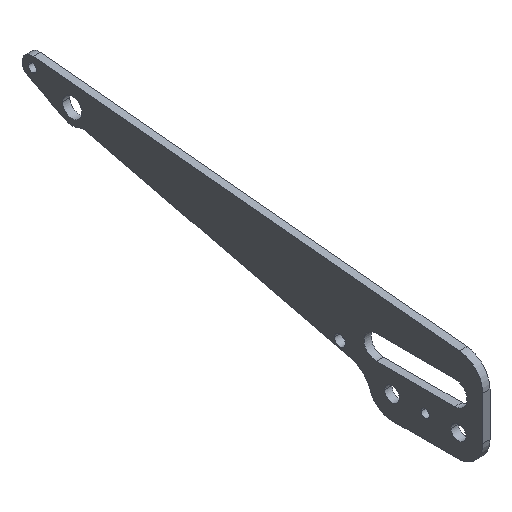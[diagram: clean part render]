
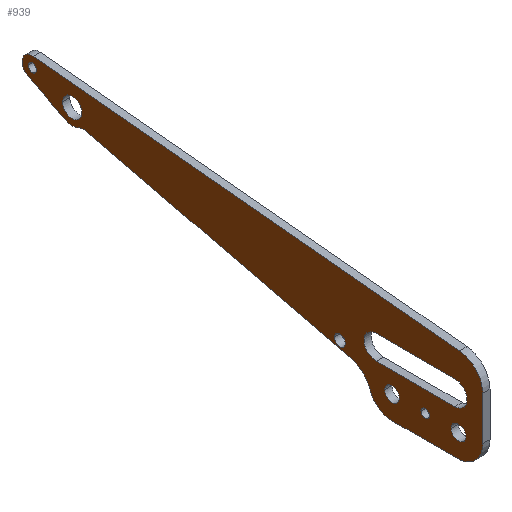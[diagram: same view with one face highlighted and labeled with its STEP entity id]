
A CAD part, isometric view. The second image highlights one B-rep face of the part: STEP entity #939.
In plain terms, the highlighted planar face has unit normal (-1, 0, 0).
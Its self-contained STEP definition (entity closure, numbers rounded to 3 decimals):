
#61=CARTESIAN_POINT('Vertex',(0.,-339.,-71.)) ;
#66=CARTESIAN_POINT('Axis2P3D Location',(0.,-318.,-71.)) ;
#70=CARTESIAN_POINT('Vertex',(0.,-318.,-92.)) ;
#97=CARTESIAN_POINT('Line Origine',(0.,-291.,-92.)) ;
#101=CARTESIAN_POINT('Vertex',(0.,-264.,-92.)) ;
#128=CARTESIAN_POINT('Axis2P3D Location',(0.,-264.,-73.)) ;
#132=CARTESIAN_POINT('Vertex',(0.,-245.975,-79.008)) ;
#159=CARTESIAN_POINT('Axis2P3D Location',(0.,-225.,-86.)) ;
#163=CARTESIAN_POINT('Vertex',(0.,-230.25,-64.523)) ;
#190=CARTESIAN_POINT('Line Origine',(0.,-121.621,-37.967)) ;
#194=CARTESIAN_POINT('Vertex',(0.,-12.991,-11.411)) ;
#221=CARTESIAN_POINT('Axis2P3D Location',(0.,-9.904,-24.04)) ;
#225=CARTESIAN_POINT('Vertex',(0.,-4.952,-12.02)) ;
#252=CARTESIAN_POINT('Axis2P3D Location',(0.,0.,0.)) ;
#256=CARTESIAN_POINT('Vertex',(0.,5.972,-11.547)) ;
#283=CARTESIAN_POINT('Line Origine',(0.,21.438,-3.549)) ;
#287=CARTESIAN_POINT('Vertex',(0.,36.905,4.45)) ;
#314=CARTESIAN_POINT('Axis2P3D Location',(0.,33.,12.)) ;
#318=CARTESIAN_POINT('Vertex',(0.,32.17,20.459)) ;
#345=CARTESIAN_POINT('Line Origine',(0.,-143.94,3.18)) ;
#349=CARTESIAN_POINT('Vertex',(0.,-320.051,-14.1)) ;
#376=CARTESIAN_POINT('Axis2P3D Location',(0.,-318.,-35.)) ;
#380=CARTESIAN_POINT('Vertex',(0.,-339.,-35.)) ;
#407=CARTESIAN_POINT('Line Origine',(0.,-339.,-53.)) ;
#442=CARTESIAN_POINT('Vertex',(0.,8.,0.)) ;
#445=CARTESIAN_POINT('Axis2P3D Location',(0.,0.,0.)) ;
#449=CARTESIAN_POINT('Vertex',(0.,-8.,0.)) ;
#469=CARTESIAN_POINT('Axis2P3D Location',(0.,0.,0.)) ;
#499=CARTESIAN_POINT('Vertex',(0.,36.5,12.)) ;
#502=CARTESIAN_POINT('Axis2P3D Location',(0.,33.,12.)) ;
#506=CARTESIAN_POINT('Vertex',(0.,29.5,12.)) ;
#526=CARTESIAN_POINT('Axis2P3D Location',(0.,33.,12.)) ;
#556=CARTESIAN_POINT('Vertex',(0.,-258.,-73.)) ;
#559=CARTESIAN_POINT('Axis2P3D Location',(0.,-264.,-73.)) ;
#563=CARTESIAN_POINT('Vertex',(0.,-270.,-73.)) ;
#583=CARTESIAN_POINT('Axis2P3D Location',(0.,-264.,-73.)) ;
#613=CARTESIAN_POINT('Vertex',(0.,-313.,-73.)) ;
#616=CARTESIAN_POINT('Axis2P3D Location',(0.,-319.,-73.)) ;
#620=CARTESIAN_POINT('Vertex',(0.,-325.,-73.)) ;
#640=CARTESIAN_POINT('Axis2P3D Location',(0.,-319.,-73.)) ;
#670=CARTESIAN_POINT('Vertex',(0.,-288.,-73.)) ;
#673=CARTESIAN_POINT('Axis2P3D Location',(0.,-291.5,-73.)) ;
#677=CARTESIAN_POINT('Vertex',(0.,-295.,-73.)) ;
#697=CARTESIAN_POINT('Axis2P3D Location',(0.,-291.5,-73.)) ;
#727=CARTESIAN_POINT('Vertex',(0.,-216.5,-56.)) ;
#730=CARTESIAN_POINT('Axis2P3D Location',(0.,-221.,-56.)) ;
#734=CARTESIAN_POINT('Vertex',(0.,-225.5,-56.)) ;
#754=CARTESIAN_POINT('Axis2P3D Location',(0.,-221.,-56.)) ;
#784=CARTESIAN_POINT('Vertex',(0.,-316.,-36.)) ;
#787=CARTESIAN_POINT('Line Origine',(0.,-283.5,-36.)) ;
#791=CARTESIAN_POINT('Vertex',(0.,-251.,-36.)) ;
#818=CARTESIAN_POINT('Axis2P3D Location',(0.,-251.,-46.)) ;
#822=CARTESIAN_POINT('Vertex',(0.,-251.,-56.)) ;
#849=CARTESIAN_POINT('Line Origine',(0.,-283.5,-56.)) ;
#853=CARTESIAN_POINT('Vertex',(0.,-316.,-56.)) ;
#878=CARTESIAN_POINT('Axis2P3D Location',(0.,-316.,-46.)) ;
#890=CARTESIAN_POINT('Axis2P3D Location',(0.,0.,0.)) ;
#67=DIRECTION('Axis2P3D Direction',(1.,0.,0.)) ;
#98=DIRECTION('Vector Direction',(0.,-1.,0.)) ;
#129=DIRECTION('Axis2P3D Direction',(1.,0.,0.)) ;
#160=DIRECTION('Axis2P3D Direction',(1.,0.,0.)) ;
#191=DIRECTION('Vector Direction',(0.,-0.971,-0.237)) ;
#222=DIRECTION('Axis2P3D Direction',(1.,0.,0.)) ;
#253=DIRECTION('Axis2P3D Direction',(1.,0.,0.)) ;
#284=DIRECTION('Vector Direction',(0.,-0.888,-0.459)) ;
#315=DIRECTION('Axis2P3D Direction',(1.,0.,0.)) ;
#346=DIRECTION('Vector Direction',(0.,0.995,0.098)) ;
#377=DIRECTION('Axis2P3D Direction',(1.,0.,0.)) ;
#408=DIRECTION('Vector Direction',(0.,0.,1.)) ;
#446=DIRECTION('Axis2P3D Direction',(1.,0.,0.)) ;
#470=DIRECTION('Axis2P3D Direction',(1.,0.,0.)) ;
#503=DIRECTION('Axis2P3D Direction',(1.,0.,0.)) ;
#527=DIRECTION('Axis2P3D Direction',(1.,0.,0.)) ;
#560=DIRECTION('Axis2P3D Direction',(1.,0.,0.)) ;
#584=DIRECTION('Axis2P3D Direction',(1.,0.,0.)) ;
#617=DIRECTION('Axis2P3D Direction',(1.,0.,0.)) ;
#641=DIRECTION('Axis2P3D Direction',(1.,0.,0.)) ;
#674=DIRECTION('Axis2P3D Direction',(1.,0.,0.)) ;
#698=DIRECTION('Axis2P3D Direction',(1.,0.,0.)) ;
#731=DIRECTION('Axis2P3D Direction',(1.,0.,0.)) ;
#755=DIRECTION('Axis2P3D Direction',(1.,0.,0.)) ;
#788=DIRECTION('Vector Direction',(0.,1.,0.)) ;
#819=DIRECTION('Axis2P3D Direction',(1.,0.,0.)) ;
#850=DIRECTION('Vector Direction',(0.,-1.,0.)) ;
#879=DIRECTION('Axis2P3D Direction',(1.,0.,0.)) ;
#891=DIRECTION('Axis2P3D Direction',(1.,0.,0.)) ;
#892=DIRECTION('Axis2P3D XDirection',(0.,1.,0.)) ;
#68=AXIS2_PLACEMENT_3D('Circle Axis2P3D',#66,#67,$) ;
#130=AXIS2_PLACEMENT_3D('Circle Axis2P3D',#128,#129,$) ;
#161=AXIS2_PLACEMENT_3D('Circle Axis2P3D',#159,#160,$) ;
#223=AXIS2_PLACEMENT_3D('Circle Axis2P3D',#221,#222,$) ;
#254=AXIS2_PLACEMENT_3D('Circle Axis2P3D',#252,#253,$) ;
#316=AXIS2_PLACEMENT_3D('Circle Axis2P3D',#314,#315,$) ;
#378=AXIS2_PLACEMENT_3D('Circle Axis2P3D',#376,#377,$) ;
#447=AXIS2_PLACEMENT_3D('Circle Axis2P3D',#445,#446,$) ;
#471=AXIS2_PLACEMENT_3D('Circle Axis2P3D',#469,#470,$) ;
#504=AXIS2_PLACEMENT_3D('Circle Axis2P3D',#502,#503,$) ;
#528=AXIS2_PLACEMENT_3D('Circle Axis2P3D',#526,#527,$) ;
#561=AXIS2_PLACEMENT_3D('Circle Axis2P3D',#559,#560,$) ;
#585=AXIS2_PLACEMENT_3D('Circle Axis2P3D',#583,#584,$) ;
#618=AXIS2_PLACEMENT_3D('Circle Axis2P3D',#616,#617,$) ;
#642=AXIS2_PLACEMENT_3D('Circle Axis2P3D',#640,#641,$) ;
#675=AXIS2_PLACEMENT_3D('Circle Axis2P3D',#673,#674,$) ;
#699=AXIS2_PLACEMENT_3D('Circle Axis2P3D',#697,#698,$) ;
#732=AXIS2_PLACEMENT_3D('Circle Axis2P3D',#730,#731,$) ;
#756=AXIS2_PLACEMENT_3D('Circle Axis2P3D',#754,#755,$) ;
#820=AXIS2_PLACEMENT_3D('Circle Axis2P3D',#818,#819,$) ;
#880=AXIS2_PLACEMENT_3D('Circle Axis2P3D',#878,#879,$) ;
#893=AXIS2_PLACEMENT_3D('Plane Axis2P3D',#890,#891,#892) ;
#896=ORIENTED_EDGE('',*,*,#411,.F.) ;
#897=ORIENTED_EDGE('',*,*,#382,.F.) ;
#898=ORIENTED_EDGE('',*,*,#351,.F.) ;
#899=ORIENTED_EDGE('',*,*,#320,.F.) ;
#900=ORIENTED_EDGE('',*,*,#289,.F.) ;
#901=ORIENTED_EDGE('',*,*,#258,.F.) ;
#902=ORIENTED_EDGE('',*,*,#227,.F.) ;
#903=ORIENTED_EDGE('',*,*,#196,.F.) ;
#904=ORIENTED_EDGE('',*,*,#165,.F.) ;
#905=ORIENTED_EDGE('',*,*,#134,.F.) ;
#906=ORIENTED_EDGE('',*,*,#103,.F.) ;
#907=ORIENTED_EDGE('',*,*,#72,.F.) ;
#910=ORIENTED_EDGE('',*,*,#473,.T.) ;
#911=ORIENTED_EDGE('',*,*,#451,.T.) ;
#914=ORIENTED_EDGE('',*,*,#530,.T.) ;
#915=ORIENTED_EDGE('',*,*,#508,.T.) ;
#918=ORIENTED_EDGE('',*,*,#587,.T.) ;
#919=ORIENTED_EDGE('',*,*,#565,.T.) ;
#922=ORIENTED_EDGE('',*,*,#644,.T.) ;
#923=ORIENTED_EDGE('',*,*,#622,.T.) ;
#926=ORIENTED_EDGE('',*,*,#701,.T.) ;
#927=ORIENTED_EDGE('',*,*,#679,.T.) ;
#930=ORIENTED_EDGE('',*,*,#758,.T.) ;
#931=ORIENTED_EDGE('',*,*,#736,.T.) ;
#934=ORIENTED_EDGE('',*,*,#882,.T.) ;
#935=ORIENTED_EDGE('',*,*,#855,.T.) ;
#936=ORIENTED_EDGE('',*,*,#824,.T.) ;
#937=ORIENTED_EDGE('',*,*,#793,.T.) ;
#912=FACE_BOUND('',#909,.T.) ;
#916=FACE_BOUND('',#913,.T.) ;
#920=FACE_BOUND('',#917,.T.) ;
#924=FACE_BOUND('',#921,.T.) ;
#928=FACE_BOUND('',#925,.T.) ;
#932=FACE_BOUND('',#929,.T.) ;
#938=FACE_BOUND('',#933,.T.) ;
#99=VECTOR('Line Direction',#98,1.) ;
#192=VECTOR('Line Direction',#191,1.) ;
#285=VECTOR('Line Direction',#284,1.) ;
#347=VECTOR('Line Direction',#346,1.) ;
#409=VECTOR('Line Direction',#408,1.) ;
#789=VECTOR('Line Direction',#788,1.) ;
#851=VECTOR('Line Direction',#850,1.) ;
#939=ADVANCED_FACE('',(#908,#912,#916,#920,#924,#928,#932,#938),#894,.F.) ;
#69=CIRCLE('generated circle',#68,21.) ;
#131=CIRCLE('generated circle',#130,19.) ;
#162=CIRCLE('generated circle',#161,22.11) ;
#224=CIRCLE('generated circle',#223,13.) ;
#255=CIRCLE('generated circle',#254,13.) ;
#317=CIRCLE('generated circle',#316,8.5) ;
#379=CIRCLE('generated circle',#378,21.) ;
#448=CIRCLE('generated circle',#447,8.) ;
#472=CIRCLE('generated circle',#471,8.) ;
#505=CIRCLE('generated circle',#504,3.5) ;
#529=CIRCLE('generated circle',#528,3.5) ;
#562=CIRCLE('generated circle',#561,6.) ;
#586=CIRCLE('generated circle',#585,6.) ;
#619=CIRCLE('generated circle',#618,6.) ;
#643=CIRCLE('generated circle',#642,6.) ;
#676=CIRCLE('generated circle',#675,3.5) ;
#700=CIRCLE('generated circle',#699,3.5) ;
#733=CIRCLE('generated circle',#732,4.5) ;
#757=CIRCLE('generated circle',#756,4.5) ;
#821=CIRCLE('generated circle',#820,10.) ;
#881=CIRCLE('generated circle',#880,10.) ;
#72=EDGE_CURVE('',#62,#71,#69,.T.) ;
#103=EDGE_CURVE('',#71,#102,#100,.F.) ;
#134=EDGE_CURVE('',#102,#133,#131,.T.) ;
#165=EDGE_CURVE('',#133,#164,#162,.F.) ;
#196=EDGE_CURVE('',#164,#195,#193,.F.) ;
#227=EDGE_CURVE('',#195,#226,#224,.F.) ;
#258=EDGE_CURVE('',#226,#257,#255,.T.) ;
#289=EDGE_CURVE('',#257,#288,#286,.F.) ;
#320=EDGE_CURVE('',#288,#319,#317,.T.) ;
#351=EDGE_CURVE('',#319,#350,#348,.F.) ;
#382=EDGE_CURVE('',#350,#381,#379,.T.) ;
#411=EDGE_CURVE('',#381,#62,#410,.F.) ;
#451=EDGE_CURVE('',#450,#443,#448,.T.) ;
#473=EDGE_CURVE('',#443,#450,#472,.T.) ;
#508=EDGE_CURVE('',#507,#500,#505,.T.) ;
#530=EDGE_CURVE('',#500,#507,#529,.T.) ;
#565=EDGE_CURVE('',#564,#557,#562,.T.) ;
#587=EDGE_CURVE('',#557,#564,#586,.T.) ;
#622=EDGE_CURVE('',#621,#614,#619,.T.) ;
#644=EDGE_CURVE('',#614,#621,#643,.T.) ;
#679=EDGE_CURVE('',#678,#671,#676,.T.) ;
#701=EDGE_CURVE('',#671,#678,#700,.T.) ;
#736=EDGE_CURVE('',#735,#728,#733,.T.) ;
#758=EDGE_CURVE('',#728,#735,#757,.T.) ;
#793=EDGE_CURVE('',#792,#785,#790,.F.) ;
#824=EDGE_CURVE('',#823,#792,#821,.T.) ;
#855=EDGE_CURVE('',#854,#823,#852,.F.) ;
#882=EDGE_CURVE('',#785,#854,#881,.T.) ;
#895=EDGE_LOOP('',(#896,#897,#898,#899,#900,#901,#902,#903,#904,#905,#906,#907)) ;
#909=EDGE_LOOP('',(#910,#911)) ;
#913=EDGE_LOOP('',(#914,#915)) ;
#917=EDGE_LOOP('',(#918,#919)) ;
#921=EDGE_LOOP('',(#922,#923)) ;
#925=EDGE_LOOP('',(#926,#927)) ;
#929=EDGE_LOOP('',(#930,#931)) ;
#933=EDGE_LOOP('',(#934,#935,#936,#937)) ;
#908=FACE_OUTER_BOUND('',#895,.T.) ;
#100=LINE('Line',#97,#99) ;
#193=LINE('Line',#190,#192) ;
#286=LINE('Line',#283,#285) ;
#348=LINE('Line',#345,#347) ;
#410=LINE('Line',#407,#409) ;
#790=LINE('Line',#787,#789) ;
#852=LINE('Line',#849,#851) ;
#894=PLANE('Plane',#893) ;
#62=VERTEX_POINT('',#61) ;
#71=VERTEX_POINT('',#70) ;
#102=VERTEX_POINT('',#101) ;
#133=VERTEX_POINT('',#132) ;
#164=VERTEX_POINT('',#163) ;
#195=VERTEX_POINT('',#194) ;
#226=VERTEX_POINT('',#225) ;
#257=VERTEX_POINT('',#256) ;
#288=VERTEX_POINT('',#287) ;
#319=VERTEX_POINT('',#318) ;
#350=VERTEX_POINT('',#349) ;
#381=VERTEX_POINT('',#380) ;
#443=VERTEX_POINT('',#442) ;
#450=VERTEX_POINT('',#449) ;
#500=VERTEX_POINT('',#499) ;
#507=VERTEX_POINT('',#506) ;
#557=VERTEX_POINT('',#556) ;
#564=VERTEX_POINT('',#563) ;
#614=VERTEX_POINT('',#613) ;
#621=VERTEX_POINT('',#620) ;
#671=VERTEX_POINT('',#670) ;
#678=VERTEX_POINT('',#677) ;
#728=VERTEX_POINT('',#727) ;
#735=VERTEX_POINT('',#734) ;
#785=VERTEX_POINT('',#784) ;
#792=VERTEX_POINT('',#791) ;
#823=VERTEX_POINT('',#822) ;
#854=VERTEX_POINT('',#853) ;
